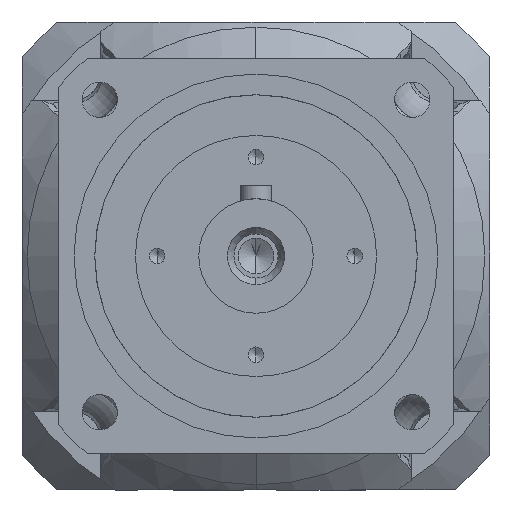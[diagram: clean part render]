
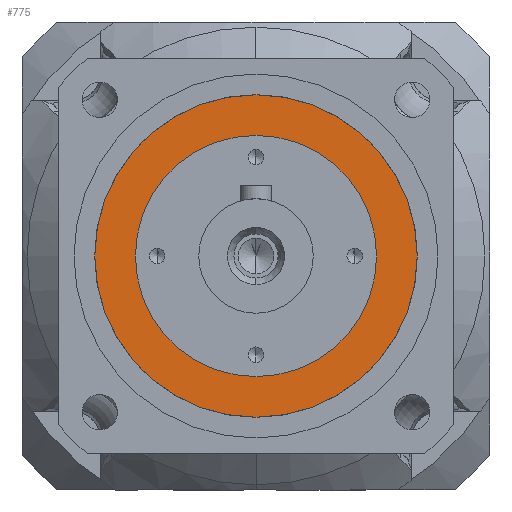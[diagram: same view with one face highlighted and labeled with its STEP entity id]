
A CAD part, left-side view. The second image highlights one B-rep face of the part: STEP entity #775.
In plain terms, the highlighted planar face has unit normal (-1, 0, 0) as drawn and (0, 0, 1) by its records, which use the part's own axes.
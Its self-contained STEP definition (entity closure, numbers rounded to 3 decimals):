
#598 = ORIENTED_EDGE ( 'NONE', *, *, #1560, .T. ) ;
#601 = EDGE_CURVE ( 'NONE', #1563, #1570, #4497, .T. ) ;
#602 = EDGE_LOOP ( 'NONE', ( #598, #783 ) ) ;
#609 = EDGE_CURVE ( 'NONE', #1569, #1555, #4480, .T. ) ;
#610 = EDGE_LOOP ( 'NONE', ( #777, #782 ) ) ;
#775 = ADVANCED_FACE ( 'NONE', ( #4764, #4763 ), #4781, .T. ) ;
#777 = ORIENTED_EDGE ( 'NONE', *, *, #1417, .F. ) ;
#782 = ORIENTED_EDGE ( 'NONE', *, *, #601, .F. ) ;
#783 = ORIENTED_EDGE ( 'NONE', *, *, #609, .T. ) ;
#1417 = EDGE_CURVE ( 'NONE', #1570, #1563, #7044, .T. ) ;
#1555 = VERTEX_POINT ( 'NONE', #7235 ) ;
#1560 = EDGE_CURVE ( 'NONE', #1555, #1569, #7223, .T. ) ;
#1563 = VERTEX_POINT ( 'NONE', #7268 ) ;
#1569 = VERTEX_POINT ( 'NONE', #7252 ) ;
#1570 = VERTEX_POINT ( 'NONE', #7251 ) ;
#4448 = DIRECTION ( 'NONE',  ( -1., 0., 0. ) ) ;
#4449 = DIRECTION ( 'NONE',  ( 0., 0., -1. ) ) ;
#4480 = CIRCLE ( 'NONE', #4488, 23.2 ) ;
#4487 = CARTESIAN_POINT ( 'NONE',  ( 0., 0., 18. ) ) ;
#4488 = AXIS2_PLACEMENT_3D ( 'NONE', #4487, #4449, #4448 ) ;
#4491 = DIRECTION ( 'NONE',  ( -1., 0., 0. ) ) ;
#4492 = DIRECTION ( 'NONE',  ( 0., 0., -1. ) ) ;
#4493 = CARTESIAN_POINT ( 'NONE',  ( 0., 0., 18. ) ) ;
#4497 = CIRCLE ( 'NONE', #4498, 31. ) ;
#4498 = AXIS2_PLACEMENT_3D ( 'NONE', #4493, #4492, #4491 ) ;
#4563 = AXIS2_PLACEMENT_3D ( 'NONE', #4673, #4672, #4671 ) ;
#4671 = DIRECTION ( 'NONE',  ( 1., 0., 0. ) ) ;
#4672 = DIRECTION ( 'NONE',  ( 0., 0., 1. ) ) ;
#4673 = CARTESIAN_POINT ( 'NONE',  ( 0., 31., 18. ) ) ;
#4763 = FACE_OUTER_BOUND ( 'NONE', #610, .T. ) ;
#4764 = FACE_BOUND ( 'NONE', #602, .T. ) ;
#4781 = PLANE ( 'NONE',  #4563 ) ;
#6959 = AXIS2_PLACEMENT_3D ( 'NONE', #7020, #7019, #7018 ) ;
#7018 = DIRECTION ( 'NONE',  ( -1., 0., 0. ) ) ;
#7019 = DIRECTION ( 'NONE',  ( 0., 0., -1. ) ) ;
#7020 = CARTESIAN_POINT ( 'NONE',  ( 0., 0., 18. ) ) ;
#7044 = CIRCLE ( 'NONE', #6959, 31. ) ;
#7223 = CIRCLE ( 'NONE', #7272, 23.2 ) ;
#7235 = CARTESIAN_POINT ( 'NONE',  ( -23.2, 0., 18. ) ) ;
#7251 = CARTESIAN_POINT ( 'NONE',  ( -31., 0., 18. ) ) ;
#7252 = CARTESIAN_POINT ( 'NONE',  ( 23.2, 0., 18. ) ) ;
#7268 = CARTESIAN_POINT ( 'NONE',  ( 31., 0., 18. ) ) ;
#7269 = DIRECTION ( 'NONE',  ( -1., 0., 0. ) ) ;
#7270 = DIRECTION ( 'NONE',  ( 0., 0., -1. ) ) ;
#7271 = CARTESIAN_POINT ( 'NONE',  ( 0., 0., 18. ) ) ;
#7272 = AXIS2_PLACEMENT_3D ( 'NONE', #7271, #7270, #7269 ) ;
